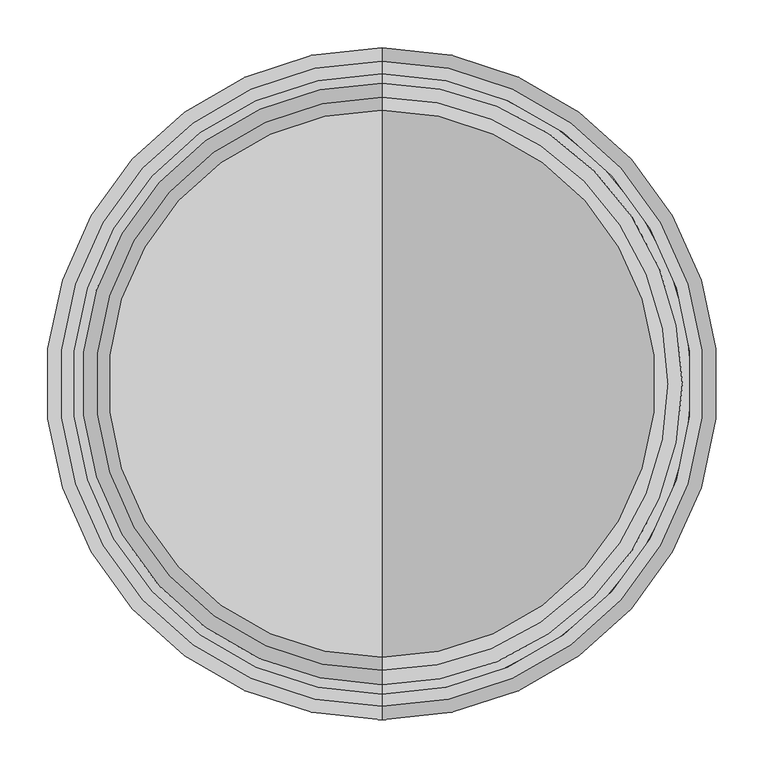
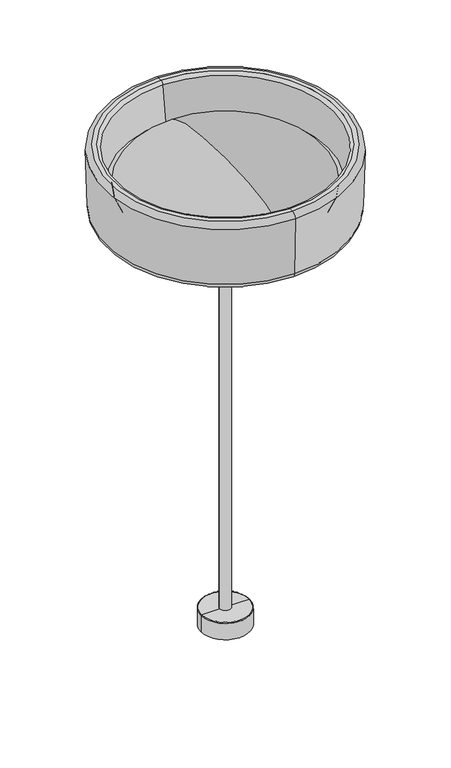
"""IFC4 building model written with IfcOpenShell, lengths in millimetres: light fixture geometry, MARSET_Interior-Lighting-Fixture_Face-Based_Ringo-70C-Fixed-Stem : A732-009-53-3CCT."""

from ifc_helpers import new_model, si_unit, point, frame, origin, origin_2d, place, context, project, spatial, polyline, circle_curve, ellipse_curve, trimmed, segment, composite_curve, outline, extrude, source, transform, mapped, element, save
from ifc_brep_helpers import plane_surface, cylinder_surface, revolved_surface, spline_curve, advanced_brep


def light_fixture_03dc277a(model_context):
    return source(origin(), model_context, "Body", "SolidModel", [
        advanced_brep(
        [(0.0, -250.3034973, 1322.9946899), (0.0, 250.3034973, 1322.9946899), (0.0, 0.0, 1322.9946899), (0.0, 0.0, 1420.7195465)],
        [
            (0, 1, circle_curve(frame((0.0, 0.0, 1322.9946899), z_axis=(0.0, 0.0, -1.0), x_axis=(0.0, 1.0, 0.0)), 250.3034973)),
            (1, 2),
            (2, 0),
            (1, 0, circle_curve(frame((0.0, 0.0, 1322.9946899), z_axis=(0.0, 0.0, -1.0), x_axis=(0.0, 1.0, 0.0)), 250.3034973)),
            (3, 1, spline_curve(3, [(0.0, 0.0, 1420.7195465), (0.0, 132.18064352, 1420.7195465), (0.0, 213.977829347, 1408.37746887), (0.0, 282.55368574, 1370.728426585), (0.0, 290.543044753, 1350.451473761), (0.0, 277.348055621, 1328.745744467), (0.0, 269.134698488, 1322.9946899), (0.0, 250.3034973, 1322.9946899)], [4, 2, 2, 4], [0.0, 0.36765608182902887, 0.6244787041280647, 0.7482334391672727])),
            (0, 3, spline_curve(3, [(0.0, -250.3034973, 1322.9946899), (0.0, -269.134698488, 1322.9946899), (0.0, -277.348055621, 1328.745744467), (0.0, -290.543044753, 1350.451473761), (0.0, -282.55368574, 1370.728426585), (0.0, -213.977829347, 1408.37746887), (0.0, -132.18064352, 1420.7195465), (0.0, 0.0, 1420.7195465)], [4, 2, 2, 4], [0.0, 0.12375473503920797, 0.3805773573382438, 0.7482334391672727])),
        ],
        [
            plane_surface(frame((0.0, 0.0, 1322.9946899), z_axis=(0.0, 0.0, -1.0), x_axis=(0.0, 1.0, 0.0))),
            revolved_surface(spline_curve(3, [(0.0, 250.3034973, 1322.9946899), (0.0, 269.134698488, 1322.9946899), (0.0, 277.348055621, 1328.745744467), (0.0, 290.543044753, 1350.451473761), (0.0, 282.55368574, 1370.728426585), (0.0, 213.977829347, 1408.37746887), (0.0, 132.18064352, 1420.7195465), (0.0, 0.0, 1420.7195465)], [4, 2, 2, 4], [0.0, 0.12375473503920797, 0.3805773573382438, 0.7482334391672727]), (0.0, 0.0, 1531.1323547), (0.0, 0.0, 1.0)),
        ],
        [
            (0, [[1, 2, 3]]),
            (0, [[4, -3, -2]]),
            (1, [[5, -1, 6]]),
            (1, [[-6, -4, -5]]),
        ],
    ),
        advanced_brep(
        [(0.0, -336.1360456, 1462.91008), (0.0, 336.1360456, 1462.91008), (0.0, 350.1857811, 1448.4814315), (0.0, -350.1857811, 1448.4814315), (0.0, -323.3210908, 1462.91008), (0.0, 323.3210908, 1462.91008), (0.0, -313.4184101, 1454.301811), (0.0, 313.4184101, 1454.301811), (0.0, -298.5823019, 1348.7374162), (0.0, 298.5823019, 1348.7374162), (0.0, -263.9229195, 1318.6084747), (0.0, 263.9229195, 1318.6084747), (0.0, 0.0, 1318.6084747), (0.0, -85.6686743, 1251.1323547), (0.0, 85.6686743, 1251.1323547), (0.0, 0.0, 1251.1323547), (0.0, -85.6686743, 1253.6601306), (0.0, 85.6686743, 1253.6601306), (0.0, -84.8806425, 1254.5992704), (0.0, 84.8806425, 1254.5992704), (0.0, -328.8442111, 1260.5496153), (0.0, 328.8442111, 1260.5496153), (0.0, -345.6296823, 1277.297805), (0.0, 345.6296823, 1277.297805)],
        [
            (0, 1, circle_curve(frame((0.0, 0.0, 1462.91008), z_axis=(0.0, 0.0, -1.0), x_axis=(0.0, 1.0, 0.0)), 336.1360456)),
            (1, 2, circle_curve(frame((0.0, 336.1360456, 1448.8553691), z_axis=(-1.0, 0.0, 0.0), x_axis=(0.0, -1.0, 0.0)), 14.0547109)),
            (2, 3, circle_curve(frame((0.0, 0.0, 1448.4814315), z_axis=(0.0, 0.0, 1.0), x_axis=(0.0, 1.0, 0.0)), 350.1857811)),
            (3, 0, circle_curve(frame((0.0, -336.1360456, 1448.8553691), z_axis=(-1.0, 0.0, 0.0), x_axis=(0.0, 1.0, 0.0)), 14.0547109)),
            (1, 0, circle_curve(frame((0.0, 0.0, 1462.91008), z_axis=(0.0, 0.0, -1.0), x_axis=(0.0, 1.0, 0.0)), 336.1360456)),
            (3, 2, circle_curve(frame((0.0, 0.0, 1448.4814315), z_axis=(0.0, 0.0, 1.0), x_axis=(0.0, 1.0, 0.0)), 350.1857811)),
            (4, 5, circle_curve(frame((0.0, 0.0, 1462.91008), z_axis=(0.0, 0.0, -1.0), x_axis=(0.0, 1.0, 0.0)), 323.3210908)),
            (5, 1),
            (0, 4),
            (5, 4, circle_curve(frame((0.0, 0.0, 1462.91008), z_axis=(0.0, 0.0, -1.0), x_axis=(0.0, 1.0, 0.0)), 323.3210908)),
            (6, 7, circle_curve(frame((0.0, 0.0, 1454.301811), z_axis=(0.0, 0.0, -1.0), x_axis=(0.0, 1.0, 0.0)), 313.4184101)),
            (7, 5, circle_curve(frame((0.0, 323.3210908, 1452.91008), z_axis=(-1.0, 0.0, 0.0), x_axis=(0.0, -1.0, 0.0)), 10.0)),
            (4, 6, circle_curve(frame((0.0, -323.3210908, 1452.91008), z_axis=(-1.0, 0.0, 0.0), x_axis=(0.0, 1.0, 0.0)), 10.0)),
            (7, 6, circle_curve(frame((0.0, 0.0, 1454.301811), z_axis=(0.0, 0.0, -1.0), x_axis=(0.0, 1.0, 0.0)), 313.4184101)),
            (8, 9, circle_curve(frame((0.0, 0.0, 1348.7374162), z_axis=(0.0, 0.0, -1.0), x_axis=(0.0, 1.0, 0.0)), 298.5823019)),
            (9, 7),
            (6, 8),
            (9, 8, circle_curve(frame((0.0, 0.0, 1348.7374162), z_axis=(0.0, 0.0, -1.0), x_axis=(0.0, 1.0, 0.0)), 298.5823019)),
            (10, 11, circle_curve(frame((0.0, 0.0, 1318.6084747), z_axis=(0.0, 0.0, -1.0), x_axis=(0.0, 1.0, 0.0)), 263.9229195)),
            (11, 9, circle_curve(frame((0.0, 263.9229195, 1353.6084747), z_axis=(1.0, 0.0, 0.0), x_axis=(0.0, -1.0, 0.0)), 35.0)),
            (8, 10, circle_curve(frame((0.0, -263.9229195, 1353.6084747), z_axis=(1.0, 0.0, 0.0), x_axis=(0.0, 1.0, 0.0)), 35.0)),
            (11, 10, circle_curve(frame((0.0, 0.0, 1318.6084747), z_axis=(0.0, 0.0, -1.0), x_axis=(0.0, 1.0, 0.0)), 263.9229195)),
            (12, 11),
            (10, 12),
            (13, 14, circle_curve(frame((0.0, 0.0, 1251.1323547), z_axis=(0.0, 0.0, -1.0), x_axis=(0.0, 1.0, 0.0)), 85.6686743)),
            (14, 15),
            (15, 13),
            (14, 13, circle_curve(frame((0.0, 0.0, 1251.1323547), z_axis=(0.0, 0.0, -1.0), x_axis=(0.0, 1.0, 0.0)), 85.6686743)),
            (16, 17, circle_curve(frame((0.0, 0.0, 1253.6601306), z_axis=(0.0, 0.0, -1.0), x_axis=(0.0, 1.0, 0.0)), 85.6686743)),
            (17, 14),
            (13, 16),
            (17, 16, circle_curve(frame((0.0, 0.0, 1253.6601306), z_axis=(0.0, 0.0, -1.0), x_axis=(0.0, 1.0, 0.0)), 85.6686743)),
            (18, 19, circle_curve(frame((0.0, 0.0, 1254.5992704), z_axis=(0.0, 0.0, -1.0), x_axis=(0.0, 1.0, 0.0)), 84.8806425)),
            (19, 17),
            (16, 18),
            (19, 18, circle_curve(frame((0.0, 0.0, 1254.5992704), z_axis=(0.0, 0.0, -1.0), x_axis=(0.0, 1.0, 0.0)), 84.8806425)),
            (20, 21, circle_curve(frame((0.0, 0.0, 1260.5496153), z_axis=(0.0, 0.0, -1.0), x_axis=(0.0, 1.0, 0.0)), 328.8442111)),
            (21, 19),
            (18, 20),
            (21, 20, circle_curve(frame((0.0, 0.0, 1260.5496153), z_axis=(0.0, 0.0, -1.0), x_axis=(0.0, 1.0, 0.0)), 328.8442111)),
            (22, 23, circle_curve(frame((0.0, 0.0, 1277.297805), z_axis=(0.0, 0.0, -1.0), x_axis=(0.0, 1.0, 0.0)), 345.6296823)),
            (23, 21, circle_curve(frame((0.0, 328.4245489, 1277.7557243), z_axis=(-1.0, 0.0, 0.0), x_axis=(0.0, -1.0, 0.0)), 17.2112261)),
            (20, 22, circle_curve(frame((0.0, -328.4245489, 1277.7557243), z_axis=(-1.0, 0.0, 0.0), x_axis=(0.0, 1.0, 0.0)), 17.2112261)),
            (23, 22, circle_curve(frame((0.0, 0.0, 1277.297805), z_axis=(0.0, 0.0, -1.0), x_axis=(0.0, 1.0, 0.0)), 345.6296823)),
            (2, 23),
            (22, 3),
        ],
        [
            revolved_surface(trimmed(ellipse_curve(frame((0.0, 336.1360456, 1448.8553691), z_axis=(1.0, 0.0, 0.0), x_axis=(0.0, -1.0, 0.0)), 14.0547109, 14.0547109), [point((0.0, 350.1857811, 1448.4814315))], [point((0.0, 336.1360456, 1462.91008))], True, "CARTESIAN"), (0.0, 0.0, 1178.799057), (0.0, 0.0, 1.0)),
            plane_surface(frame((0.0, 0.0, 1462.91008), z_axis=(0.0, 0.0, 1.0), x_axis=(0.0, 1.0, 0.0))),
            revolved_surface(trimmed(ellipse_curve(frame((0.0, 323.3210908, 1452.91008), z_axis=(1.0, 0.0, 0.0), x_axis=(0.0, -1.0, 0.0)), 10.0, 10.0), [point((0.0, 323.3210908, 1462.91008))], [point((0.0, 313.4184101, 1454.301811))], True, "CARTESIAN"), (0.0, 0.0, 1178.799057), (0.0, 0.0, 1.0)),
            revolved_surface(polyline([(0.0, 313.4184101, 1454.301811), (0.0, 298.5823019, 1348.7374162)]), (0.0, 0.0, 1178.799057), (0.0, 0.0, 1.0)),
            revolved_surface(trimmed(ellipse_curve(frame((0.0, 263.9229195, 1353.6084747), z_axis=(-1.0, 0.0, 0.0), x_axis=(0.0, -1.0, 0.0)), 35.0, 35.0), [point((0.0, 298.5823019, 1348.7374162))], [point((0.0, 263.9229195, 1318.6084747))], True, "CARTESIAN"), (0.0, 0.0, 1178.799057), (0.0, 0.0, 1.0)),
            plane_surface(frame((0.0, 0.0, 1318.6084747), z_axis=(0.0, 0.0, 1.0), x_axis=(0.0, 1.0, 0.0))),
            plane_surface(frame((0.0, 0.0, 1251.1323547), z_axis=(0.0, 0.0, -1.0), x_axis=(0.0, 1.0, 0.0))),
            cylinder_surface(frame((0.0, 0.0, 1178.799057), z_axis=(0.0, 0.0, 1.0), x_axis=(0.0, 1.0, 0.0)), 85.6686743),
            revolved_surface(polyline([(0.0, 85.6686743, 1253.6601306), (0.0, 84.8806425, 1254.5992704)]), (0.0, 0.0, 1178.799057), (0.0, 0.0, 1.0)),
            revolved_surface(polyline([(0.0, 84.8806425, 1254.5992704), (0.0, 328.8442111, 1260.5496153)]), (0.0, 0.0, 1178.799057), (0.0, 0.0, 1.0)),
            revolved_surface(trimmed(ellipse_curve(frame((0.0, 328.4245489, 1277.7557243), z_axis=(1.0, 0.0, 0.0), x_axis=(0.0, -1.0, 0.0)), 17.2112261, 17.2112261), [point((0.0, 328.8442111, 1260.5496153))], [point((0.0, 345.6296823, 1277.297805))], True, "CARTESIAN"), (0.0, 0.0, 1178.799057), (0.0, 0.0, 1.0)),
            revolved_surface(polyline([(0.0, 345.6296823, 1277.297805), (0.0, 350.1857811, 1448.4814315)]), (0.0, 0.0, 1178.799057), (0.0, 0.0, 1.0)),
        ],
        [
            (0, [[1, 2, 3, 4]]),
            (0, [[5, -4, 6, -2]]),
            (1, [[7, 8, -1, 9]]),
            (1, [[10, -9, -5, -8]]),
            (2, [[11, 12, -7, 13]]),
            (2, [[14, -13, -10, -12]]),
            (3, [[15, 16, -11, 17]]),
            (3, [[18, -17, -14, -16]]),
            (4, [[19, 20, -15, 21]]),
            (4, [[22, -21, -18, -20]]),
            (5, [[23, -19, 24]]),
            (5, [[-24, -22, -23]]),
            (6, [[25, 26, 27]]),
            (6, [[28, -27, -26]]),
            (7, [[29, 30, -25, 31]]),
            (7, [[32, -31, -28, -30]]),
            (8, [[33, 34, -29, 35]]),
            (8, [[36, -35, -32, -34]]),
            (9, [[37, 38, -33, 39]]),
            (9, [[40, -39, -36, -38]]),
            (10, [[41, 42, -37, 43]]),
            (10, [[44, -43, -40, -42]]),
            (11, [[-3, 45, -41, 46]]),
            (11, [[-6, -46, -44, -45]]),
        ],
    ),
        extrude(outline(composite_curve([segment(trimmed(circle_curve(origin_2d(), 16.0), [point((16.0, 0.0))], [point((-16.0, 0.0))], False, "CARTESIAN"), True, "CONTINUOUS"), segment(trimmed(circle_curve(origin_2d(), 16.0), [point((-16.0, 0.0))], [point((16.0, 0.0))], False, "CARTESIAN"), True, "CONTINUOUS")], self_intersect=False)), frame((0.0, 0.0, 51.1323547), z_axis=(0.0, 0.0, 1.0), x_axis=(1.0, 0.0, 0.0)), (0.0, 0.0, 1.0), 1189.971341),
        advanced_brep(
        [(21.3969326, 0.0, 1242.3269361), (-21.3943481, 0.0, 1242.3269361), (-21.3943481, 0.0, 1251.1323547), (21.3969326, 0.0, 1251.1323547), (0.0012922, 0.0, 1241.1036958), (-20.1711078, 0.0, 1241.1036958), (20.1736922, 0.0, 1241.1036958), (0.0012922, 0.0, 1251.1323547)],
        [
            (0, 1, circle_curve(frame((0.0012922, 0.0, 1242.3269361), z_axis=(0.0, 0.0, 1.0), x_axis=(-1.0, 0.0, 0.0)), 21.3956404)),
            (1, 2),
            (2, 3, circle_curve(frame((0.0012922, 0.0, 1251.1323547), z_axis=(0.0, 0.0, -1.0), x_axis=(-1.0, 0.0, 0.0)), 21.3956404)),
            (3, 0),
            (1, 0, circle_curve(frame((0.0012922, 0.0, 1242.3269361), z_axis=(0.0, 0.0, 1.0), x_axis=(-1.0, 0.0, 0.0)), 21.3956404)),
            (3, 2, circle_curve(frame((0.0012922, 0.0, 1251.1323547), z_axis=(0.0, 0.0, -1.0), x_axis=(-1.0, 0.0, 0.0)), 21.3956404)),
            (4, 5),
            (5, 6, circle_curve(frame((0.0012922, 0.0, 1241.1036958), z_axis=(0.0, 0.0, -1.0), x_axis=(-1.0, 0.0, 0.0)), 20.1724)),
            (6, 4),
            (6, 5, circle_curve(frame((0.0012922, 0.0, 1241.1036958), z_axis=(0.0, 0.0, -1.0), x_axis=(-1.0, 0.0, 0.0)), 20.1724)),
            (2, 7),
            (7, 3),
            (5, 1, circle_curve(frame((-20.1711078, 0.0, 1242.3269361), z_axis=(0.0, 1.0, 0.0), x_axis=(1.0, 0.0, 0.0)), 1.2232404)),
            (0, 6, circle_curve(frame((20.1736922, 0.0, 1242.3269361), z_axis=(0.0, 1.0, 0.0), x_axis=(-1.0, 0.0, 0.0)), 1.2232404)),
        ],
        [
            cylinder_surface(frame((0.0012922, 0.0, 1252.1322632), z_axis=(0.0, 0.0, -1.0), x_axis=(-1.0, 0.0, 0.0)), 21.3956404),
            plane_surface(frame((0.0012922, 0.0, 1241.1036958), z_axis=(0.0, 0.0, -1.0), x_axis=(-1.0, 0.0, 0.0))),
            plane_surface(frame((0.0012922, 0.0, 1251.1323547), z_axis=(0.0, 0.0, 1.0), x_axis=(-1.0, 0.0, 0.0))),
            revolved_surface(trimmed(ellipse_curve(frame((-20.1711078, 0.0, 1242.3269361), z_axis=(0.0, -1.0, 0.0), x_axis=(1.0, 0.0, 0.0)), 1.2232404, 1.2232404), [point((-21.3943481, 0.0, 1242.3269361))], [point((-20.1711078, 0.0, 1241.1036958))], True, "CARTESIAN"), (0.0012922, 0.0, 1252.1322632), (0.0, 0.0, -1.0)),
        ],
        [
            (0, [[1, 2, 3, 4]]),
            (0, [[5, -4, 6, -2]]),
            (1, [[7, 8, 9]]),
            (1, [[-9, 10, -7]]),
            (2, [[-3, 11, 12]]),
            (2, [[-6, -12, -11]]),
            (3, [[-8, 13, -1, 14]]),
            (3, [[-10, -14, -5, -13]]),
        ],
    ),
        advanced_brep(
        [(0.0, 0.0, 0.0), (-70.123291, 0.0, 0.0), (70.123291, 0.0, 0.0), (68.1495563, 0.0, 51.1323547), (-68.1495563, 0.0, 51.1323547), (0.0, 0.0, 51.1323547), (-70.123291, 0.0, 49.1586201), (70.123291, 0.0, 49.1586201)],
        [
            (0, 1),
            (1, 2, circle_curve(frame((0.0, 0.0, 0.0), z_axis=(0.0, 0.0, -1.0), x_axis=(-1.0, 0.0, 0.0)), 70.123291)),
            (2, 0),
            (2, 1, circle_curve(frame((0.0, 0.0, 0.0), z_axis=(0.0, 0.0, -1.0), x_axis=(-1.0, 0.0, 0.0)), 70.123291)),
            (3, 4, circle_curve(frame((0.0, 0.0, 51.1323547), z_axis=(0.0, 0.0, 1.0), x_axis=(-1.0, 0.0, 0.0)), 68.1495563)),
            (4, 5),
            (5, 3),
            (4, 3, circle_curve(frame((0.0, 0.0, 51.1323547), z_axis=(0.0, 0.0, 1.0), x_axis=(-1.0, 0.0, 0.0)), 68.1495563)),
            (1, 6),
            (6, 7, circle_curve(frame((0.0, 0.0, 49.1586201), z_axis=(0.0, 0.0, -1.0), x_axis=(-1.0, 0.0, 0.0)), 70.123291)),
            (7, 2),
            (7, 6, circle_curve(frame((0.0, 0.0, 49.1586201), z_axis=(0.0, 0.0, -1.0), x_axis=(-1.0, 0.0, 0.0)), 70.123291)),
            (6, 4, circle_curve(frame((-68.1495563, 0.0, 49.1586201), z_axis=(0.0, 1.0, 0.0), x_axis=(1.0, 0.0, 0.0)), 1.9737347)),
            (3, 7, circle_curve(frame((68.1495563, 0.0, 49.1586201), z_axis=(0.0, 1.0, 0.0), x_axis=(-1.0, 0.0, 0.0)), 1.9737347)),
        ],
        [
            plane_surface(frame((0.0, 0.0, 0.0), z_axis=(0.0, 0.0, -1.0), x_axis=(-1.0, 0.0, 0.0))),
            plane_surface(frame((0.0, 0.0, 51.1323547), z_axis=(0.0, 0.0, 1.0), x_axis=(-1.0, 0.0, 0.0))),
            cylinder_surface(frame((0.0, 0.0, -15.0), z_axis=(0.0, 0.0, -1.0), x_axis=(-1.0, 0.0, 0.0)), 70.123291),
            revolved_surface(trimmed(ellipse_curve(frame((-68.1495563, 0.0, 49.1586201), z_axis=(0.0, -1.0, 0.0), x_axis=(1.0, 0.0, 0.0)), 1.9737347, 1.9737347), [point((-68.1495563, 0.0, 51.1323547))], [point((-70.123291, 0.0, 49.1586201))], True, "CARTESIAN"), (0.0, 0.0, -15.0), (0.0, 0.0, -1.0)),
        ],
        [
            (0, [[1, 2, 3]]),
            (0, [[-3, 4, -1]]),
            (1, [[5, 6, 7]]),
            (1, [[8, -7, -6]]),
            (2, [[-2, 9, 10, 11]]),
            (2, [[-4, -11, 12, -9]]),
            (3, [[-10, 13, -5, 14]]),
            (3, [[-12, -14, -8, -13]]),
        ],
    ),
    ])


if __name__ == "__main__":
    model = new_model("IFC4")
    model_context = context("Model", 3, world=origin())
    ifc_project = project(units=[si_unit("LENGTHUNIT", "METRE", prefix="MILLI")], contexts=[model_context])
    site = spatial("IfcSite", under=ifc_project)
    building = spatial("IfcBuilding", under=site)
    placement = place(None, origin())
    light_fixture_shape = light_fixture_03dc277a(model_context)
    element("IfcLightFixture", 1, ObjectType="MARSET_Interior-Lighting-Fixture_Face-Based_Ringo-70C-Fixed-Stem : A732-009-53-3CCT", at=placement, inside=building, context=model_context, shape_type="MappedRepresentation", body=[
        mapped(light_fixture_shape, transform((0.0, 0.0, 0.0), x_axis=(1.0, 0.0, 0.0), y_axis=(0.0, 1.0, 0.0), z_axis=(0.0, 0.0, 1.0))),
    ])
    save(model, "model.ifc")
